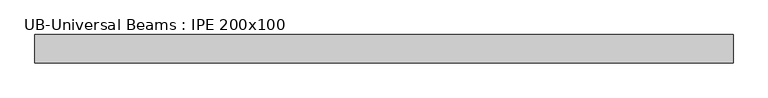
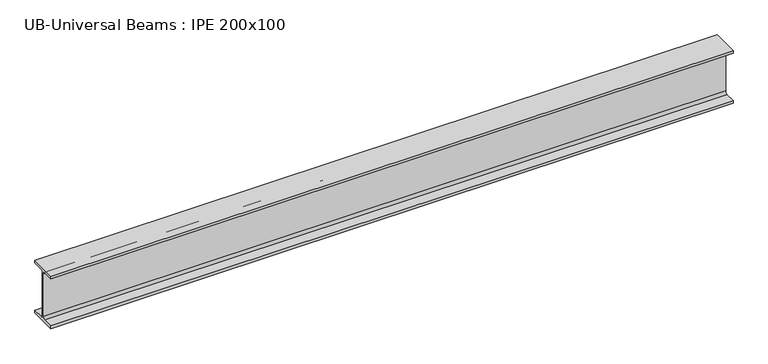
"""IFC4 building model written with IfcOpenShell, lengths in millimetres: beam geometry, UB-Universal Beams : IPE 200x100."""

import ifcopenshell
import ifcopenshell.guid

model = None  # the IFC model being written
_history = None  # IfcOwnerHistory: only IFC2X3 demands one
_inside = {}  # id of a spatial element -> (the spatial element, [elements in it])
_under = {}  # id of a project, library or spatial element -> (it, [spatial elements below it])
_declared = {}  # id of a project -> (the project, [libraries it declares])
_typed = {}  # id of a type object -> (the type object, [elements of that type])
_made_of = {}  # id of a material, layer set ... -> (it, [elements and type objects made of it])


def new_model(schema):
    """Start an empty IFC model of exactly this schema.

    Asked for "IFC4X3", IfcOpenShell would pick the latest addendum, in which some entities
    have other attributes; the version numbers below select the first issue.
    IFC2X3 requires an IfcOwnerHistory on every rooted entity: one is made here for all.
    """
    global model, _history
    if schema == "IFC4X3":
        model = ifcopenshell.file(schema_version=(4, 3, 0, 0))
    else:
        model = ifcopenshell.file(schema=schema)
    _inside.clear()
    _under.clear()
    _declared.clear()
    _typed.clear()
    _made_of.clear()
    _history = None
    if model.schema == "IFC2X3":
        org = make("IfcOrganization", Name="unknown")
        user = make(
            "IfcPersonAndOrganization",
            ThePerson=make("IfcPerson", FamilyName="unknown"),
            TheOrganization=org,
        )
        app = make(
            "IfcApplication",
            ApplicationDeveloper=org,
            Version="unknown",
            ApplicationFullName="unknown",
            ApplicationIdentifier="unknown",
        )
        _history = make(
            "IfcOwnerHistory",
            OwningUser=user,
            OwningApplication=app,
            ChangeAction="ADDED",
            CreationDate=0,
        )
    return model


def make(cls, **values):
    """One entity of the class cls with the attributes given. An attribute that is None is left unset."""
    return model.create_entity(
        cls, **{name: value for name, value in values.items() if value is not None}
    )


def rooted(cls, **values):
    """An entity with a GlobalId (a new one), such as an element, a storey or a relation."""
    return make(cls, GlobalId=ifcopenshell.guid.new(), OwnerHistory=_history, **values)


def si_unit(unit_type, name, prefix=None):
    """IfcSIUnit, for example si_unit("LENGTHUNIT", "METRE", prefix="MILLI")."""
    return make("IfcSIUnit", UnitType=unit_type, Prefix=prefix, Name=name)


def assignment(units):
    """IfcUnitAssignment: the units of a project."""
    return None if units is None else make("IfcUnitAssignment", Units=units)


def point(xyz):
    """IfcCartesianPoint."""
    return None if xyz is None else make("IfcCartesianPoint", Coordinates=xyz)


def direction(xyz):
    """IfcDirection."""
    return None if xyz is None else make("IfcDirection", DirectionRatios=xyz)


def frame(location, z_axis=None, x_axis=None):
    """IfcAxis2Placement3D, a coordinate frame: its origin and axes. An axis left out is left unset."""
    return make(
        "IfcAxis2Placement3D",
        Location=point(location),
        Axis=direction(z_axis),
        RefDirection=direction(x_axis),
    )


def frame_2d(location, x_axis=None):
    """IfcAxis2Placement2D, a coordinate frame in the plane: its origin and x axis."""
    return make(
        "IfcAxis2Placement2D", Location=point(location), RefDirection=direction(x_axis)
    )


def origin():
    """The frame at (0, 0, 0) with its axes left unset."""
    return frame((0.0, 0.0, 0.0))


def place(relative_to, where):
    """IfcLocalPlacement: puts the frame where relative to a parent placement (None: the world)."""
    return make(
        "IfcLocalPlacement", PlacementRelTo=relative_to, RelativePlacement=where
    )


def context(
    kind, dimensions, precision=None, world=None, true_north=None, identifier=None
):
    """IfcGeometricRepresentationContext, for example the 3D "Model" context."""
    return make(
        "IfcGeometricRepresentationContext",
        ContextIdentifier=identifier,
        ContextType=kind,
        CoordinateSpaceDimension=dimensions,
        Precision=precision,
        WorldCoordinateSystem=world,
        TrueNorth=true_north,
    )


def project(units=None, contexts=None):
    """IfcProject with its units and contexts."""
    return rooted(
        "IfcProject",
        Name="project",
        RepresentationContexts=contexts,
        UnitsInContext=assignment(units),
    )


def spatial(cls, under=None, at=None, **own):
    """A site, building, storey or space (cls), placed at a placement, below another one or the project."""
    s = rooted(cls, ObjectPlacement=at, **own)
    if under is not None:
        _under.setdefault(under.id(), (under, []))[1].append(s)
    return s


def polyline(points):
    """IfcPolyline through the points."""
    return make("IfcPolyline", Points=[point(p) for p in points])


def circle_curve(where, radius):
    """IfcCircle in the frame where."""
    return make("IfcCircle", Position=where, Radius=radius)


def trimmed(basis, trim1, trim2, sense, master):
    """IfcTrimmedCurve: the piece of a basis curve between two trims."""
    return make(
        "IfcTrimmedCurve",
        BasisCurve=basis,
        Trim1=trim1,
        Trim2=trim2,
        SenseAgreement=sense,
        MasterRepresentation=master,
    )


def segment(curve, same_sense, transition):
    """IfcCompositeCurveSegment."""
    return make(
        "IfcCompositeCurveSegment",
        Transition=transition,
        SameSense=same_sense,
        ParentCurve=curve,
    )


def composite_curve(segments, self_intersect=None):
    """IfcCompositeCurve: segments joined end to end."""
    return make("IfcCompositeCurve", Segments=segments, SelfIntersect=self_intersect)


def outline(outer, holes=None, kind="AREA"):
    """IfcArbitraryClosedProfileDef: a profile drawn as a closed curve; with holes, ...WithVoids."""
    if holes is None:
        return make("IfcArbitraryClosedProfileDef", ProfileType=kind, OuterCurve=outer)
    return make(
        "IfcArbitraryProfileDefWithVoids",
        ProfileType=kind,
        OuterCurve=outer,
        InnerCurves=holes,
    )


def extrude(swept, where, along, depth):
    """IfcExtrudedAreaSolid: the profile swept, set in the frame where, extruded along a direction by depth."""
    return make(
        "IfcExtrudedAreaSolid",
        SweptArea=swept,
        Position=where,
        ExtrudedDirection=direction(along),
        Depth=depth,
    )


def shape(context_of_items, identifier, shape_type, items):
    """IfcShapeRepresentation: the items that make up one representation, for example the "Body"."""
    return make(
        "IfcShapeRepresentation",
        ContextOfItems=context_of_items,
        RepresentationIdentifier=identifier,
        RepresentationType=shape_type,
        Items=items,
    )


def source(mapping_origin, context_of_items, identifier, shape_type, items):
    """IfcRepresentationMap: a shape defined once, which mapped items show again and again."""
    return make(
        "IfcRepresentationMap",
        MappingOrigin=mapping_origin,
        MappedRepresentation=shape(context_of_items, identifier, shape_type, items),
    )


def transform(
    local_origin,
    x_axis=None,
    y_axis=None,
    z_axis=None,
    scale=None,
    scale2=None,
    scale3=None,
    uniform=True,
):
    """IfcCartesianTransformationOperator3D, or its non-uniform kind. x_axis, y_axis, z_axis: its Axis1, 2, 3."""
    if uniform:
        return make(
            "IfcCartesianTransformationOperator3D",
            Axis1=direction(x_axis),
            Axis2=direction(y_axis),
            LocalOrigin=point(local_origin),
            Scale=scale,
            Axis3=direction(z_axis),
        )
    return make(
        "IfcCartesianTransformationOperator3DnonUniform",
        Axis1=direction(x_axis),
        Axis2=direction(y_axis),
        LocalOrigin=point(local_origin),
        Scale=scale,
        Axis3=direction(z_axis),
        Scale2=scale2,
        Scale3=scale3,
    )


def mapped(mapping_source, mapping_target):
    """IfcMappedItem: shows the shape of a source again, moved by a transform."""
    return make(
        "IfcMappedItem", MappingSource=mapping_source, MappingTarget=mapping_target
    )


def made_of(thing, what):
    """Note that an element or type object is made of a material, layer set ...; save() writes the relation."""
    if what is not None:
        _made_of.setdefault(what.id(), (what, []))[1].append(thing)
    return thing


def element(
    cls,
    number,
    at=None,
    inside=None,
    cuts=None,
    type_object=None,
    material=None,
    context=None,
    identifier="Body",
    shape_type=None,
    held_by="IfcProductDefinitionShape",
    body=None,
    shapes=None,
    **own,
):
    """One element of the class cls, such as IfcWall. Its Tag is "e" and its number.

    at: its placement. inside: the storey or other place that contains it. cuts: it is an
    opening in that element (IfcRelVoidsElement). A single representation is given by context,
    identifier, shape_type and body (its items); several are given by shapes. held_by: the class
    of the entity that holds the representations. save() writes the other relations.
    """
    e = rooted(cls, Tag="e%d" % number, ObjectPlacement=at, **own)
    if body is not None:
        shapes = [shape(context, identifier, shape_type, body)]
    if shapes is not None:
        e.Representation = make(held_by, Representations=shapes)
    if inside is not None:
        _inside.setdefault(inside.id(), (inside, []))[1].append(e)
    if cuts is not None:
        rooted(
            "IfcRelVoidsElement", RelatingBuildingElement=cuts, RelatedOpeningElement=e
        )
    if type_object is not None:
        _typed.setdefault(type_object.id(), (type_object, []))[1].append(e)
    return made_of(e, material)


def aggregate(whole, parts):
    """IfcRelAggregates: a whole, such as a stair, and the parts it consists of."""
    return rooted("IfcRelAggregates", RelatingObject=whole, RelatedObjects=parts)


def save(model, path):
    """Write the relations noted so far, then the file.

    IfcRelAggregates (storeys below a building ...), IfcRelContainedInSpatialStructure (elements
    in a storey), IfcRelDefinesByType, IfcRelAssociatesMaterial and IfcRelDeclares: one each for
    every whole, place, type object, material and project.
    """
    for whole, parts in _under.values():
        aggregate(whole, parts)
    for where, things in _inside.values():
        rooted(
            "IfcRelContainedInSpatialStructure",
            RelatedElements=things,
            RelatingStructure=where,
        )
    for kind, things in _typed.values():
        rooted("IfcRelDefinesByType", RelatedObjects=things, RelatingType=kind)
    for what, things in _made_of.values():
        rooted("IfcRelAssociatesMaterial", RelatedObjects=things, RelatingMaterial=what)
    for by, libraries in _declared.values():
        rooted("IfcRelDeclares", RelatingContext=by, RelatedDefinitions=libraries)
    model.write(path)


def ub_universal_beams_ipe_200x100_6905c83b(model_context):
    return source(origin(), model_context, "Body", "SweptSolid", [
        extrude(outline(composite_curve([segment(polyline([(50.0, -89.8), (50.0, -100.0), (-50.0, -100.0), (-50.0, -89.8), (-11.9, -89.8)]), True, "CONTINUOUS"), segment(trimmed(circle_curve(frame_2d((-11.9, -80.9)), 8.9), [point((-11.9, -89.8))], [point((-3.0, -80.9))], True, "CARTESIAN"), True, "CONTINUOUS"), segment(polyline([(-3.0, -80.9), (-3.0, 80.9)]), True, "CONTINUOUS"), segment(trimmed(circle_curve(frame_2d((-11.9, 80.9)), 8.9), [point((-3.0, 80.9))], [point((-11.9, 89.8))], True, "CARTESIAN"), True, "CONTINUOUS"), segment(polyline([(-11.9, 89.8), (-50.0, 89.8), (-50.0, 100.0), (50.0, 100.0), (50.0, 89.8), (11.9, 89.8)]), True, "CONTINUOUS"), segment(trimmed(circle_curve(frame_2d((11.9, 80.9)), 8.9), [point((11.9, 89.8))], [point((3.0, 80.9))], True, "CARTESIAN"), True, "CONTINUOUS"), segment(polyline([(3.0, 80.9), (3.0, -80.9)]), True, "CONTINUOUS"), segment(trimmed(circle_curve(frame_2d((11.9, -80.9)), 8.9), [point((3.0, -80.9))], [point((11.9, -89.8))], True, "CARTESIAN"), True, "CONTINUOUS"), segment(polyline([(11.9, -89.8), (50.0, -89.8)]), True, "CONTINUOUS")], self_intersect=False)), frame((-849.2, 0.0, 0.0), z_axis=(1.0, 0.0, 0.0), x_axis=(0.0, 1.0, 0.0)), (0.0, 0.0, 1.0), 2461.1),
    ])


if __name__ == "__main__":
    model = new_model("IFC4")
    model_context = context("Model", 3, world=origin())
    ifc_project = project(units=[si_unit("LENGTHUNIT", "METRE", prefix="MILLI")], contexts=[model_context])
    site = spatial("IfcSite", under=ifc_project)
    building = spatial("IfcBuilding", under=site)
    placement = place(None, origin())
    ub_universal_beams_ipe_200x100_shape = ub_universal_beams_ipe_200x100_6905c83b(model_context)
    element("IfcBeam", 1, ObjectType="UB-Universal Beams : IPE 200x100", at=placement, inside=building, context=model_context, shape_type="MappedRepresentation", body=[
        mapped(ub_universal_beams_ipe_200x100_shape, transform((0.0, 0.0, 0.0), x_axis=(1.0, 0.0, 0.0), y_axis=(0.0, 1.0, 0.0), z_axis=(0.0, 0.0, 1.0))),
    ])
    save(model, "model.ifc")
